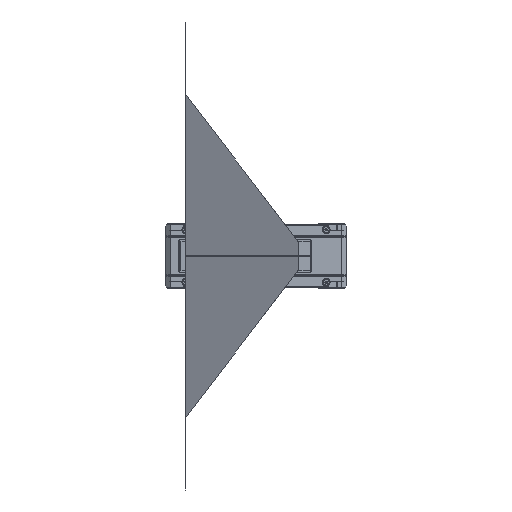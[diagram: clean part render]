
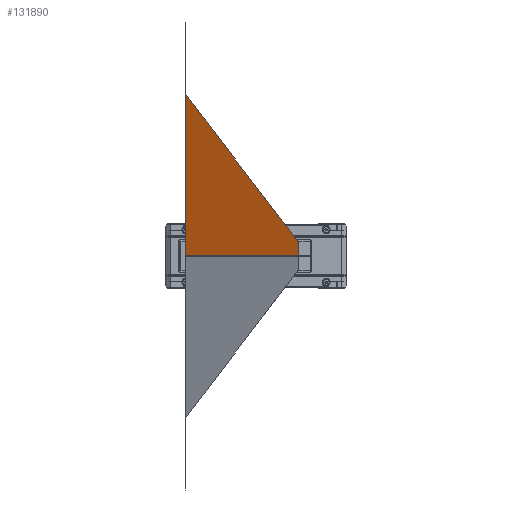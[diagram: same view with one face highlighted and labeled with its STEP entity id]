
A CAD part, front view. The second image highlights one B-rep face of the part: STEP entity #131890.
In plain terms, the highlighted planar face has unit normal (0.976, -0.219, 0).
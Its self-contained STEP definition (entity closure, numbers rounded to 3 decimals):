
#3134 = EDGE_LOOP ( 'NONE', ( #109709, #21648, #165379, #131579 ) ) ;
#20793 = VERTEX_POINT ( 'NONE', #135810 ) ;
#21648 = ORIENTED_EDGE ( 'NONE', *, *, #118993, .F. ) ;
#22822 = CARTESIAN_POINT ( 'NONE',  ( 26.072, -10.701, 9. ) ) ;
#54268 = VECTOR ( 'NONE', #145604, 1000. ) ;
#55528 = CARTESIAN_POINT ( 'NONE',  ( -43.49, -321.001, 100. ) ) ;
#69565 = DIRECTION ( 'NONE',  ( 0.21, 0.938, -0.275 ) ) ;
#75699 = CARTESIAN_POINT ( 'NONE',  ( -43.49, -321.001, 100. ) ) ;
#79169 = VECTOR ( 'NONE', #80648, 1000. ) ;
#80648 = DIRECTION ( 'NONE',  ( 0., 0., 1. ) ) ;
#87191 = CARTESIAN_POINT ( 'NONE',  ( 26.072, -10.701, 0.005 ) ) ;
#95743 = LINE ( 'NONE', #157143, #79169 ) ;
#104646 = CARTESIAN_POINT ( 'NONE',  ( 24.761, -16.551, 0. ) ) ;
#109709 = ORIENTED_EDGE ( 'NONE', *, *, #153324, .F. ) ;
#116724 = VERTEX_POINT ( 'NONE', #22822 ) ;
#118993 = EDGE_CURVE ( 'NONE', #116724, #142774, #174804, .T. ) ;
#122785 = DIRECTION ( 'NONE',  ( -0.976, 0.219, 0. ) ) ;
#129516 = CARTESIAN_POINT ( 'NONE',  ( 26.072, -10.701, 9. ) ) ;
#131579 = ORIENTED_EDGE ( 'NONE', *, *, #145602, .F. ) ;
#131745 = LINE ( 'NONE', #193151, #141852 ) ;
#131865 = PLANE ( 'NONE',  #139238 ) ;
#131890 = ADVANCED_FACE ( 'NONE', ( #173437 ), #131865, .F. ) ;
#135810 = CARTESIAN_POINT ( 'NONE',  ( -43.49, -321.001, 0.005 ) ) ;
#136088 = EDGE_CURVE ( 'NONE', #155297, #116724, #159173, .T. ) ;
#139238 = AXIS2_PLACEMENT_3D ( 'NONE', #104646, #122785, #151969 ) ;
#141852 = VECTOR ( 'NONE', #160960, 1000. ) ;
#142774 = VERTEX_POINT ( 'NONE', #87191 ) ;
#145602 = EDGE_CURVE ( 'NONE', #20793, #155297, #95743, .T. ) ;
#145604 = DIRECTION ( 'NONE',  ( 0., 0., -1. ) ) ;
#151969 = DIRECTION ( 'NONE',  ( 0., 0., 1. ) ) ;
#153324 = EDGE_CURVE ( 'NONE', #142774, #20793, #131745, .T. ) ;
#155297 = VERTEX_POINT ( 'NONE', #75699 ) ;
#157143 = CARTESIAN_POINT ( 'NONE',  ( -43.49, -321.001, -100. ) ) ;
#159173 = LINE ( 'NONE', #55528, #195737 ) ;
#160960 = DIRECTION ( 'NONE',  ( -0.219, -0.976, 0. ) ) ;
#165379 = ORIENTED_EDGE ( 'NONE', *, *, #136088, .F. ) ;
#173437 = FACE_OUTER_BOUND ( 'NONE', #3134, .T. ) ;
#174804 = LINE ( 'NONE', #129516, #54268 ) ;
#193151 = CARTESIAN_POINT ( 'NONE',  ( 24.761, -16.551, 0.005 ) ) ;
#195737 = VECTOR ( 'NONE', #69565, 1000. ) ;
